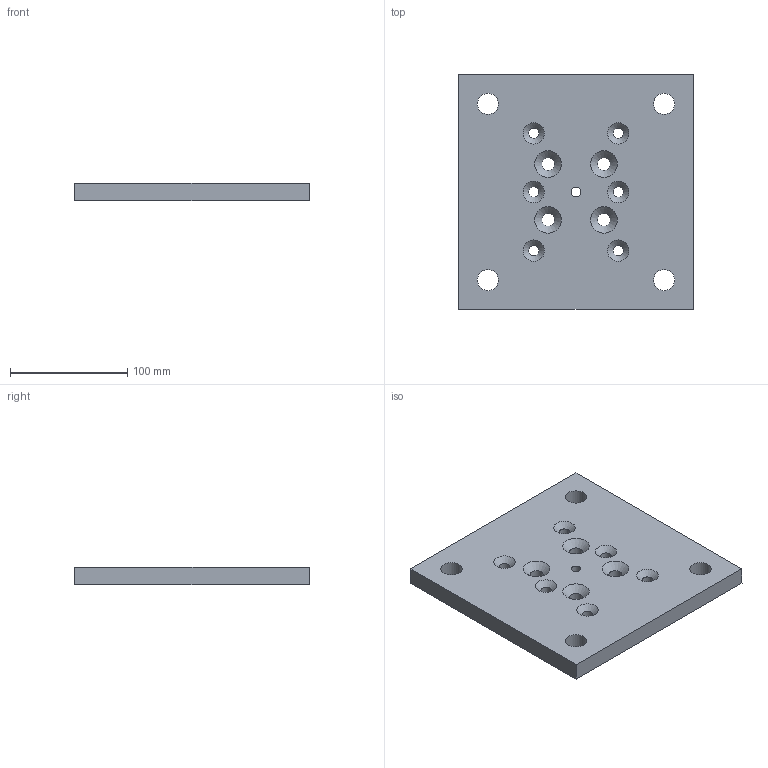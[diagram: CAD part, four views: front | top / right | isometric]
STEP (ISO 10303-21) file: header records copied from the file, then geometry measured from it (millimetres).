
FILE_DESCRIPTION(/* description */ (''),/* implementation_level */ '2;1');
FILE_NAME(/* name */ 'Pos155-Brede Strip 15x200-Aluminium-3st',/* time_stamp */ '2024-08-06T11:49:43+02:00',/* author */ (''),/* organization */ (''),/* preprocessor_version */ 'ST-DEVELOPER v16.5',/* originating_system */ 'HiCAD 2024 2901.2 Build 361',/* authorisation */ '');
FILE_SCHEMA (('AUTOMOTIVE_DESIGN { 1 0 10303 214 1 1 1 1 }'));
Length unit declared in the file: millimetre
Products named in the file (1): Pos155-Brede Strip 15x200-Aluminium-3st
Bounding box: 200 x 200 x 15 mm (x, y, z)
Volume: 566891.8 mm3; surface area: 96139.6 mm2
Topology: 1 solids, 1 shells, 31 faces, 88 edges, 69 vertices
Faces by surface type: cylinder 15, cone 10, plane 6
Full cylindrical faces by diameter (mm): 8 x1, 9 x6, 11 x4, 18 x4
Entity records: 1415 total; most frequent: DIRECTION 154, CARTESIAN_POINT 141, PRESENTATION_STYLE_ASSIGNMENT 105, COLOUR_RGB 105, DRAUGHTING_PRE_DEFINED_CURVE_FONT 104, CURVE_STYLE 104, OVER_RIDING_STYLED_ITEM 104, ORIENTED_EDGE 104
